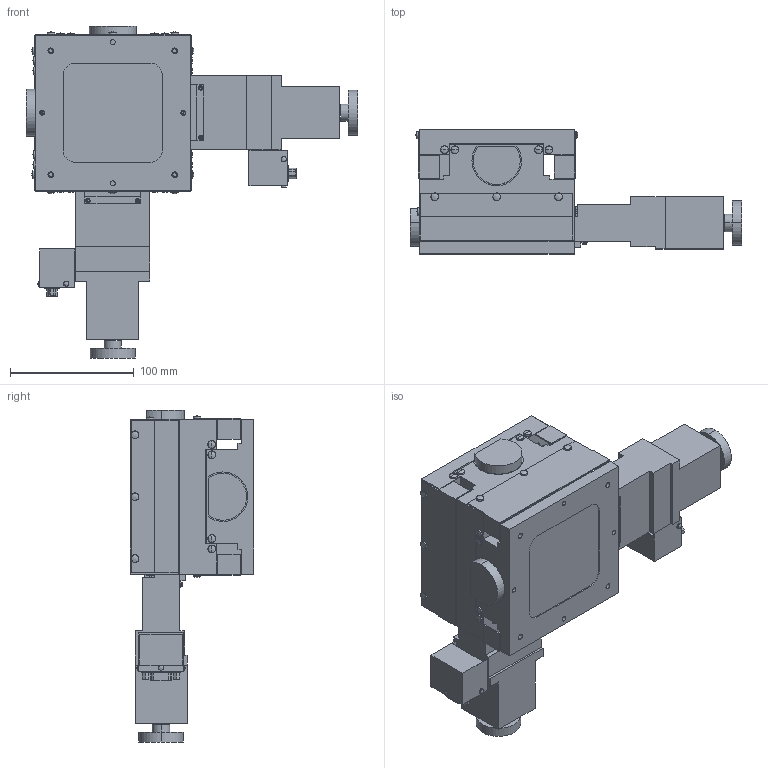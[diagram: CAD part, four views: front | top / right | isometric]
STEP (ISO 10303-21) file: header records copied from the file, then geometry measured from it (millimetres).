
FILE_DESCRIPTION (( 'STEP AP203' ), '1' );
FILE_NAME ('ALD-106-H1PC.STEP', '2016-06-21T04:22:53', ( '' ), ( '' ), 'SwSTEP 2.0', 'SolidWorks 2011', '' );
FILE_SCHEMA (( 'CONFIG_CONTROL_DESIGN' ));
Length unit declared in the file: millimetre
Products named in the file (4): ALD-106-H1PC; ALD-106-H1PC-3; ALD-106-H1PC-2; ALD-106-H1PC-1
Assembly tree (3 placements, depth 2):
  ALD-106-H1PC
    ALD-106-H1PC-1
    ALD-106-H1PC-3
    ALD-106-H1PC-2
Bounding box: 268 x 100 x 268 mm (x, y, z)
Volume: 1817822.5 mm3; surface area: 279221.4 mm2
Topology: 3 solids, 17 shells, 965 faces, 2298 edges, 1488 vertices
Faces by surface type: plane 441, cylinder 358, cone 100, sphere 40, bspline 18, torus 8
Entity records: 31978 total; most frequent: CARTESIAN_POINT 8423, DIRECTION 5080, ORIENTED_EDGE 4548, EDGE_CURVE 2274, AXIS2_PLACEMENT_3D 1889, VERTEX_POINT 1488, VECTOR 1302, LINE 1302
